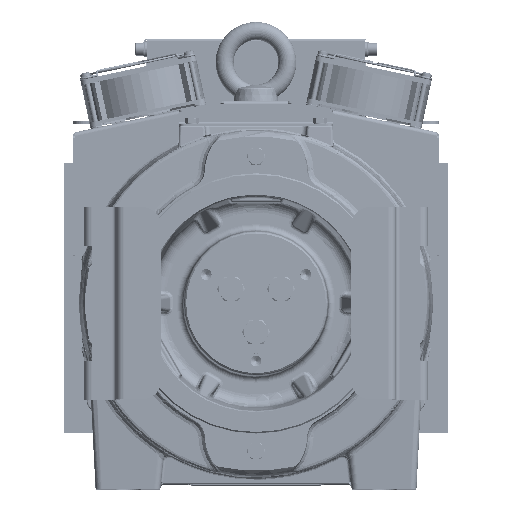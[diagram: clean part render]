
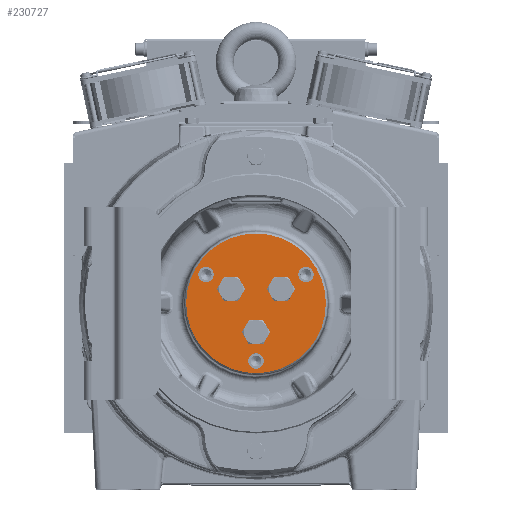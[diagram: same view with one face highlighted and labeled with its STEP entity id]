
A CAD part, top view. The second image highlights one B-rep face of the part: STEP entity #230727.
In plain terms, the highlighted planar face has unit normal (0, 0, 1) as drawn and (0, -1, 0) by its records, which use the part's own axes.
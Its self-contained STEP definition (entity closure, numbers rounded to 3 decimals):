
#230384=CARTESIAN_POINT('',(0.,0.,
0.));
#230385=DIRECTION('',(0.,-1.,0.));
#230386=DIRECTION('',(-1.,0.,0.));
#230387=AXIS2_PLACEMENT_3D('',#230384,#230385,#230386);
#230389=CARTESIAN_POINT('',(0.,0.,
0.));
#230390=DIRECTION('',(0.,-1.,0.));
#230391=DIRECTION('',(1.,0.,0.));
#230392=AXIS2_PLACEMENT_3D('',#230389,#230390,#230391);
#230394=CARTESIAN_POINT('',(0.,0.,-22.5));
#230395=DIRECTION('',(0.,-1.,0.));
#230396=DIRECTION('',(1.,0.,0.));
#230397=AXIS2_PLACEMENT_3D('',#230394,#230395,#230396);
#230399=CARTESIAN_POINT('',(0.,0.,-22.5));
#230400=DIRECTION('',(0.,-1.,0.));
#230401=DIRECTION('',(-1.,0.,0.));
#230402=AXIS2_PLACEMENT_3D('',#230399,#230400,#230401);
#230404=CARTESIAN_POINT('',(19.486,0.,11.25));
#230405=DIRECTION('',(0.,-1.,0.));
#230406=DIRECTION('',(-0.5,0.,0.866));
#230407=AXIS2_PLACEMENT_3D('',#230404,#230405,#230406);
#230409=CARTESIAN_POINT('',(19.486,0.,11.25));
#230410=DIRECTION('',(0.,-1.,0.));
#230411=DIRECTION('',(0.5,0.,-0.866));
#230412=AXIS2_PLACEMENT_3D('',#230409,#230410,#230411);
#230414=CARTESIAN_POINT('',(-19.486,0.,11.25));
#230415=DIRECTION('',(0.,-1.,0.));
#230416=DIRECTION('',(-0.5,0.,-0.866));
#230417=AXIS2_PLACEMENT_3D('',#230414,#230415,#230416);
#230419=CARTESIAN_POINT('',(-19.486,0.,11.25));
#230420=DIRECTION('',(0.,-1.,0.));
#230421=DIRECTION('',(0.5,0.,0.866));
#230422=AXIS2_PLACEMENT_3D('',#230419,#230420,#230421);
#230424=CARTESIAN_POINT('',(0.,0.,-45.));
#230425=DIRECTION('',(0.,-1.,0.));
#230426=DIRECTION('',(1.,0.,0.));
#230427=AXIS2_PLACEMENT_3D('',#230424,#230425,#230426);
#230429=CARTESIAN_POINT('',(0.,0.,-45.));
#230430=DIRECTION('',(0.,-1.,0.));
#230431=DIRECTION('',(-1.,0.,0.));
#230432=AXIS2_PLACEMENT_3D('',#230429,#230430,#230431);
#230434=CARTESIAN_POINT('',(38.971,0.,22.5));
#230435=DIRECTION('',(0.,-1.,0.));
#230436=DIRECTION('',(-0.5,0.,0.866));
#230437=AXIS2_PLACEMENT_3D('',#230434,#230435,#230436);
#230439=CARTESIAN_POINT('',(38.971,0.,22.5));
#230440=DIRECTION('',(0.,-1.,0.));
#230441=DIRECTION('',(0.5,0.,-0.866));
#230442=AXIS2_PLACEMENT_3D('',#230439,#230440,#230441);
#230444=CARTESIAN_POINT('',(-38.971,0.,22.5));
#230445=DIRECTION('',(0.,-1.,0.));
#230446=DIRECTION('',(-0.5,0.,-0.866));
#230447=AXIS2_PLACEMENT_3D('',#230444,#230445,#230446);
#230449=CARTESIAN_POINT('',(-38.971,0.,22.5));
#230450=DIRECTION('',(0.,-1.,0.));
#230451=DIRECTION('',(0.5,0.,0.866));
#230452=AXIS2_PLACEMENT_3D('',#230449,#230450,#230451);
#230628=CARTESIAN_POINT('',(6.5,0.,-22.5));
#230629=CARTESIAN_POINT('',(-6.5,0.,-22.5));
#230630=VERTEX_POINT('',#230628);
#230631=VERTEX_POINT('',#230629);
#230636=CARTESIAN_POINT('',(16.236,0.,16.879));
#230637=CARTESIAN_POINT('',(22.736,0.,5.621));
#230638=VERTEX_POINT('',#230636);
#230639=VERTEX_POINT('',#230637);
#230644=CARTESIAN_POINT('',(-22.736,0.,5.621));
#230645=CARTESIAN_POINT('',(-16.236,0.,16.879));
#230646=VERTEX_POINT('',#230644);
#230647=VERTEX_POINT('',#230645);
#230652=CARTESIAN_POINT('',(6.,0.,-45.));
#230653=CARTESIAN_POINT('',(-6.,0.,-45.));
#230654=VERTEX_POINT('',#230652);
#230655=VERTEX_POINT('',#230653);
#230660=CARTESIAN_POINT('',(35.971,0.,27.696));
#230661=CARTESIAN_POINT('',(41.971,0.,17.304));
#230662=VERTEX_POINT('',#230660);
#230663=VERTEX_POINT('',#230661);
#230668=CARTESIAN_POINT('',(-41.971,0.,17.304));
#230669=CARTESIAN_POINT('',(-35.971,0.,27.696));
#230670=VERTEX_POINT('',#230668);
#230671=VERTEX_POINT('',#230669);
#230676=CARTESIAN_POINT('',(-54.5,0.,0.));
#230677=CARTESIAN_POINT('',(54.5,0.,0.));
#230678=VERTEX_POINT('',#230676);
#230679=VERTEX_POINT('',#230677);
#230680=CARTESIAN_POINT('',(0.,0.,0.));
#230681=DIRECTION('',(0.,-1.,0.));
#230682=DIRECTION('',(-1.,0.,0.));
#230683=AXIS2_PLACEMENT_3D('',#230680,#230681,#230682);
#230684=PLANE('',#230683);
#230686=ORIENTED_EDGE('',*,*,#230685,.F.);
#230688=ORIENTED_EDGE('',*,*,#230687,.F.);
#230689=EDGE_LOOP('',(#230686,#230688));
#230690=FACE_OUTER_BOUND('',#230689,.F.);
#230692=ORIENTED_EDGE('',*,*,#230691,.T.);
#230694=ORIENTED_EDGE('',*,*,#230693,.T.);
#230695=EDGE_LOOP('',(#230692,#230694));
#230696=FACE_BOUND('',#230695,.F.);
#230698=ORIENTED_EDGE('',*,*,#230697,.T.);
#230700=ORIENTED_EDGE('',*,*,#230699,.T.);
#230701=EDGE_LOOP('',(#230698,#230700));
#230702=FACE_BOUND('',#230701,.F.);
#230704=ORIENTED_EDGE('',*,*,#230703,.T.);
#230706=ORIENTED_EDGE('',*,*,#230705,.T.);
#230707=EDGE_LOOP('',(#230704,#230706));
#230708=FACE_BOUND('',#230707,.F.);
#230710=ORIENTED_EDGE('',*,*,#230709,.T.);
#230712=ORIENTED_EDGE('',*,*,#230711,.T.);
#230713=EDGE_LOOP('',(#230710,#230712));
#230714=FACE_BOUND('',#230713,.F.);
#230716=ORIENTED_EDGE('',*,*,#230715,.T.);
#230718=ORIENTED_EDGE('',*,*,#230717,.T.);
#230719=EDGE_LOOP('',(#230716,#230718));
#230720=FACE_BOUND('',#230719,.F.);
#230722=ORIENTED_EDGE('',*,*,#230721,.T.);
#230724=ORIENTED_EDGE('',*,*,#230723,.T.);
#230725=EDGE_LOOP('',(#230722,#230724));
#230726=FACE_BOUND('',#230725,.F.);
#230727=ADVANCED_FACE('',(#230690,#230696,#230702,#230708,#230714,#230720,
#230726),#230684,.T.);
#230388=CIRCLE('',#230387,54.5);
#230393=CIRCLE('',#230392,54.5);
#230398=CIRCLE('',#230397,6.5);
#230403=CIRCLE('',#230402,6.5);
#230408=CIRCLE('',#230407,6.5);
#230413=CIRCLE('',#230412,6.5);
#230418=CIRCLE('',#230417,6.5);
#230423=CIRCLE('',#230422,6.5);
#230428=CIRCLE('',#230427,6.);
#230433=CIRCLE('',#230432,6.);
#230438=CIRCLE('',#230437,6.);
#230443=CIRCLE('',#230442,6.);
#230448=CIRCLE('',#230447,6.);
#230453=CIRCLE('',#230452,6.);
#230685=EDGE_CURVE('',#230678,#230679,#230388,.T.);
#230687=EDGE_CURVE('',#230679,#230678,#230393,.T.);
#230691=EDGE_CURVE('',#230630,#230631,#230398,.T.);
#230693=EDGE_CURVE('',#230631,#230630,#230403,.T.);
#230697=EDGE_CURVE('',#230638,#230639,#230408,.T.);
#230699=EDGE_CURVE('',#230639,#230638,#230413,.T.);
#230703=EDGE_CURVE('',#230646,#230647,#230418,.T.);
#230705=EDGE_CURVE('',#230647,#230646,#230423,.T.);
#230709=EDGE_CURVE('',#230654,#230655,#230428,.T.);
#230711=EDGE_CURVE('',#230655,#230654,#230433,.T.);
#230715=EDGE_CURVE('',#230662,#230663,#230438,.T.);
#230717=EDGE_CURVE('',#230663,#230662,#230443,.T.);
#230721=EDGE_CURVE('',#230670,#230671,#230448,.T.);
#230723=EDGE_CURVE('',#230671,#230670,#230453,.T.);
